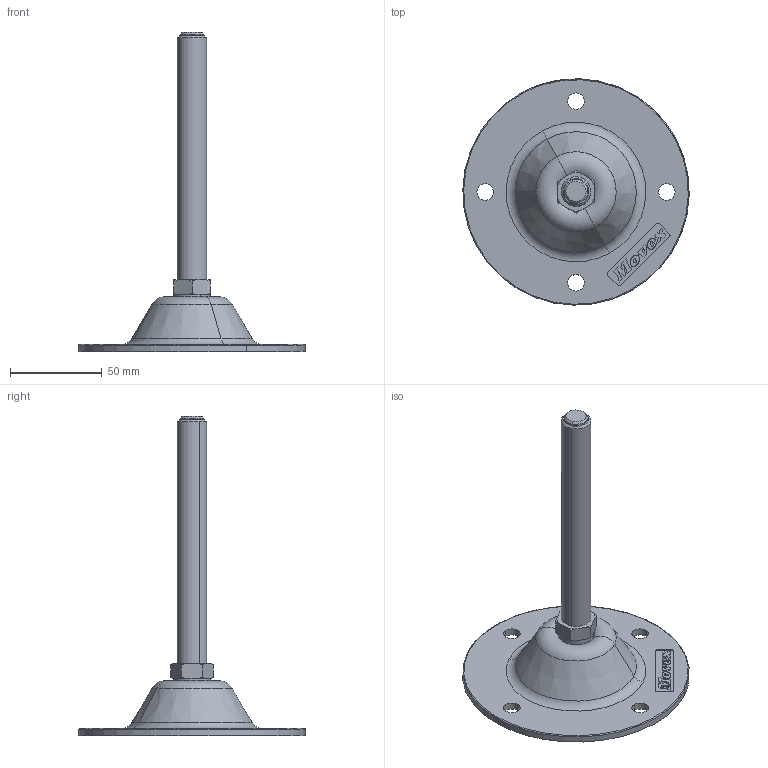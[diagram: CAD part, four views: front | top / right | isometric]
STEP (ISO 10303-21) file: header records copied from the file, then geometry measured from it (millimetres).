
FILE_DESCRIPTION(('CATIA V5 STEP Exchange'),'2;1');
FILE_NAME('X:\CODICI MOVEX\3D per clienti\3D definitivi\Part 900\P96002ZH_01.stp','2016-10-19T16:54:14+00:00',('none'),('none'),'Version 5-6 Release 2012','CATIA V5 STEP AP203','none');
FILE_SCHEMA(('CONFIG_CONTROL_DESIGN'));
Length unit declared in the file: millimetre
Products named in the file (1): P96002ZH_01
Assembly tree (4 placements, depth 2):
  P96002ZH_01
    #58
    #15586
    #17008
    #17211
Bounding box: 123.47 x 123.47 x 174.3 mm (x, y, z)
Volume: 88532.8 mm3; surface area: 40039 mm2
Topology: 4 solids, 4 shells, 560 faces, 1580 edges, 1038 vertices
Faces by surface type: plane 472, cone 34, cylinder 32, torus 18, revolution 4
Entity records: 17820 total; most frequent: CARTESIAN_POINT 3469, ORIENTED_EDGE 3152, DIRECTION 2581, EDGE_CURVE 1576, VECTOR 1392, LINE 1392, VERTEX_POINT 1038, AXIS2_PLACEMENT_3D 660
